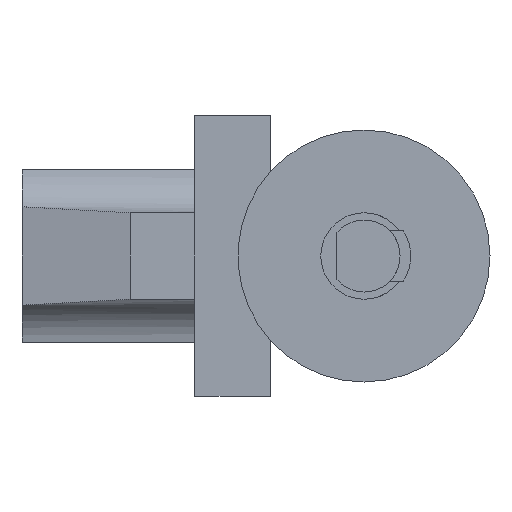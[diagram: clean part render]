
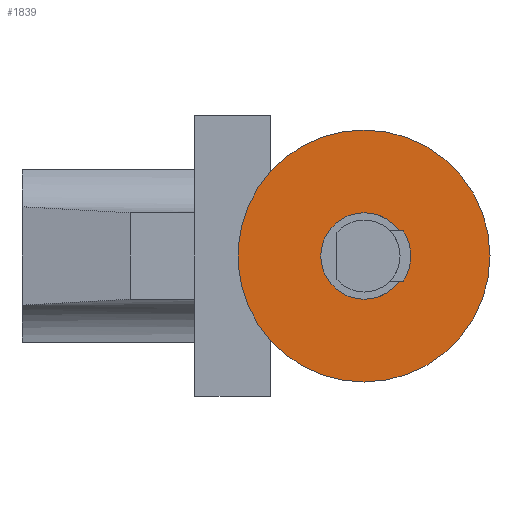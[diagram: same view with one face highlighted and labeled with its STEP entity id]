
A CAD part, left-side view. The second image highlights one B-rep face of the part: STEP entity #1839.
In plain terms, the highlighted planar face has unit normal (-1, 0, 0).
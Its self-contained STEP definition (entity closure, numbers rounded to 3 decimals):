
#6 = EDGE_LOOP ( 'NONE', ( #936, #1611, #1755, #298 ) ) ;
#21 = DIRECTION ( 'NONE',  ( 0., 0., -1. ) ) ;
#26 = VERTEX_POINT ( 'NONE', #1913 ) ;
#71 = EDGE_CURVE ( 'NONE', #72, #26, #1037, .T. ) ;
#72 = VERTEX_POINT ( 'NONE', #2143 ) ;
#83 = DIRECTION ( 'NONE',  ( 0., 0., -1. ) ) ;
#163 = FACE_OUTER_BOUND ( 'NONE', #6, .T. ) ;
#199 = CARTESIAN_POINT ( 'NONE',  ( -0.75, -4.7, 0. ) ) ;
#206 = VERTEX_POINT ( 'NONE', #452 ) ;
#238 = EDGE_CURVE ( 'NONE', #990, #206, #501, .T. ) ;
#255 = DIRECTION ( 'NONE',  ( 1., 0., 0. ) ) ;
#293 = EDGE_LOOP ( 'NONE', ( #1541, #1673 ) ) ;
#298 = ORIENTED_EDGE ( 'NONE', *, *, #1466, .F. ) ;
#337 = CARTESIAN_POINT ( 'NONE',  ( -0.75, -4.7, 0. ) ) ;
#365 = CARTESIAN_POINT ( 'NONE',  ( -0.75, -4.7, 0. ) ) ;
#452 = CARTESIAN_POINT ( 'NONE',  ( -0.75, -4.7, -1.2 ) ) ;
#501 = CIRCLE ( 'NONE', #2169, 1.2 ) ;
#656 = VERTEX_POINT ( 'NONE', #1173 ) ;
#694 = EDGE_CURVE ( 'NONE', #656, #911, #1000, .T. ) ;
#754 = FACE_BOUND ( 'NONE', #293, .T. ) ;
#785 = PLANE ( 'NONE',  #2001 ) ;
#849 = EDGE_CURVE ( 'NONE', #911, #72, #1991, .T. ) ;
#891 = DIRECTION ( 'NONE',  ( 0., 0., -1. ) ) ;
#911 = VERTEX_POINT ( 'NONE', #1998 ) ;
#936 = ORIENTED_EDGE ( 'NONE', *, *, #71, .F. ) ;
#990 = VERTEX_POINT ( 'NONE', #1875 ) ;
#1000 = CIRCLE ( 'NONE', #1973, 3.5 ) ;
#1004 = DIRECTION ( 'NONE',  ( 0., 0., -1. ) ) ;
#1037 = CIRCLE ( 'NONE', #1302, 3.5 ) ;
#1039 = DIRECTION ( 'NONE',  ( 1., 0., 0. ) ) ;
#1045 = DIRECTION ( 'NONE',  ( 1., 0., 0. ) ) ;
#1107 = EDGE_CURVE ( 'NONE', #206, #990, #2122, .T. ) ;
#1126 = DIRECTION ( 'NONE',  ( 1., 0., 0. ) ) ;
#1173 = CARTESIAN_POINT ( 'NONE',  ( -0.75, -4.7, 3.5 ) ) ;
#1203 = AXIS2_PLACEMENT_3D ( 'NONE', #199, #1946, #1261 ) ;
#1250 = DIRECTION ( 'NONE',  ( 0., 0., -1. ) ) ;
#1258 = CIRCLE ( 'NONE', #1203, 3.5 ) ;
#1261 = DIRECTION ( 'NONE',  ( 0., 0., -1. ) ) ;
#1265 = DIRECTION ( 'NONE',  ( 1., 0., 0. ) ) ;
#1302 = AXIS2_PLACEMENT_3D ( 'NONE', #1430, #1265, #1250 ) ;
#1356 = CARTESIAN_POINT ( 'NONE',  ( -0.75, -4.7, 0. ) ) ;
#1428 = AXIS2_PLACEMENT_3D ( 'NONE', #1356, #1856, #1004 ) ;
#1430 = CARTESIAN_POINT ( 'NONE',  ( -0.75, -4.7, 0. ) ) ;
#1466 = EDGE_CURVE ( 'NONE', #26, #656, #1258, .T. ) ;
#1493 = AXIS2_PLACEMENT_3D ( 'NONE', #2145, #1126, #21 ) ;
#1514 = CARTESIAN_POINT ( 'NONE',  ( -0.75, -4.1, -8.944 ) ) ;
#1541 = ORIENTED_EDGE ( 'NONE', *, *, #1107, .T. ) ;
#1611 = ORIENTED_EDGE ( 'NONE', *, *, #849, .F. ) ;
#1673 = ORIENTED_EDGE ( 'NONE', *, *, #238, .T. ) ;
#1755 = ORIENTED_EDGE ( 'NONE', *, *, #694, .F. ) ;
#1839 = ADVANCED_FACE ( 'NONE', ( #754, #163 ), #785, .F. ) ;
#1856 = DIRECTION ( 'NONE',  ( 1., 0., 0. ) ) ;
#1875 = CARTESIAN_POINT ( 'NONE',  ( -0.75, -4.7, 1.2 ) ) ;
#1913 = CARTESIAN_POINT ( 'NONE',  ( -0.75, -2.1, 2.343 ) ) ;
#1946 = DIRECTION ( 'NONE',  ( 1., 0., 0. ) ) ;
#1973 = AXIS2_PLACEMENT_3D ( 'NONE', #365, #1045, #891 ) ;
#1991 = CIRCLE ( 'NONE', #1493, 3.5 ) ;
#1998 = CARTESIAN_POINT ( 'NONE',  ( -0.75, -4.7, -3.5 ) ) ;
#2001 = AXIS2_PLACEMENT_3D ( 'NONE', #1514, #255, #83 ) ;
#2037 = DIRECTION ( 'NONE',  ( 0., 0., -1. ) ) ;
#2122 = CIRCLE ( 'NONE', #1428, 1.2 ) ;
#2143 = CARTESIAN_POINT ( 'NONE',  ( -0.75, -2.1, -2.343 ) ) ;
#2145 = CARTESIAN_POINT ( 'NONE',  ( -0.75, -4.7, 0. ) ) ;
#2169 = AXIS2_PLACEMENT_3D ( 'NONE', #337, #1039, #2037 ) ;
